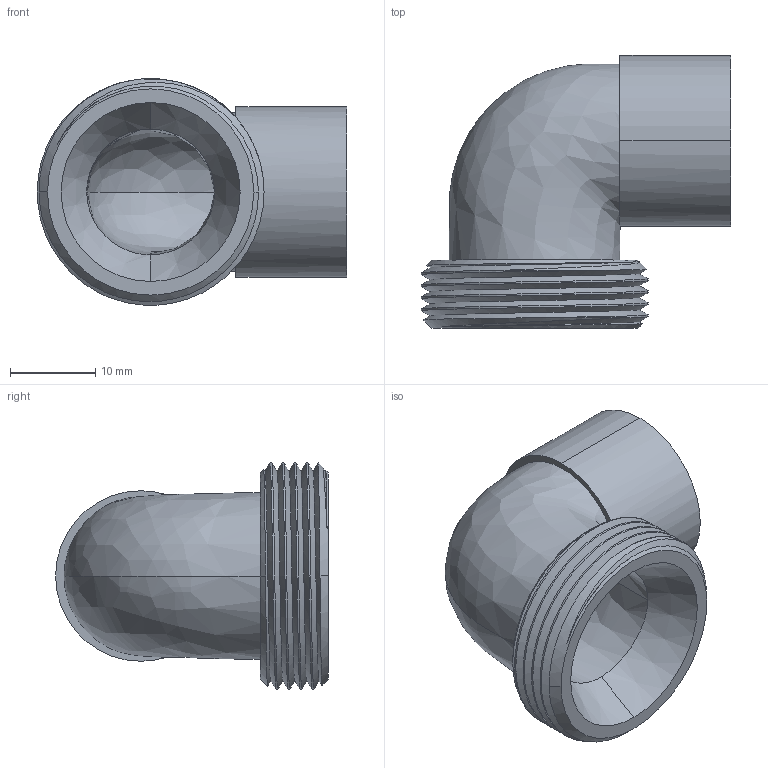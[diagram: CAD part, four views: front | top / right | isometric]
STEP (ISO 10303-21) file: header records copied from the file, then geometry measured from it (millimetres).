
FILE_DESCRIPTION (( 'STEP AP203' ), '1' );
FILE_NAME ('15X34.STEP', '2014-08-26T23:55:03', ( 'Administrators' ), ( 'JUJUMAO' ), 'SwSTEP 2.0', 'SolidWorks 2008', '' );
FILE_SCHEMA (( 'CONFIG_CONTROL_DESIGN' ));
Length unit declared in the file: millimetre
Products named in the file (1): 15X34
Bounding box: 36.3 x 32 x 26.56 mm (x, y, z)
Volume: 6802.4 mm3; surface area: 5656.9 mm2
Topology: 1 solids, 1 shells, 32 faces, 85 edges, 56 vertices
Faces by surface type: cylinder 13, cone 9, bspline 6, plane 4
Entity records: 3173 total; most frequent: CARTESIAN_POINT 2409, ORIENTED_EDGE 170, DIRECTION 109, EDGE_CURVE 85, VERTEX_POINT 56, AXIS2_PLACEMENT_3D 44, EDGE_LOOP 35, ADVANCED_FACE 32
